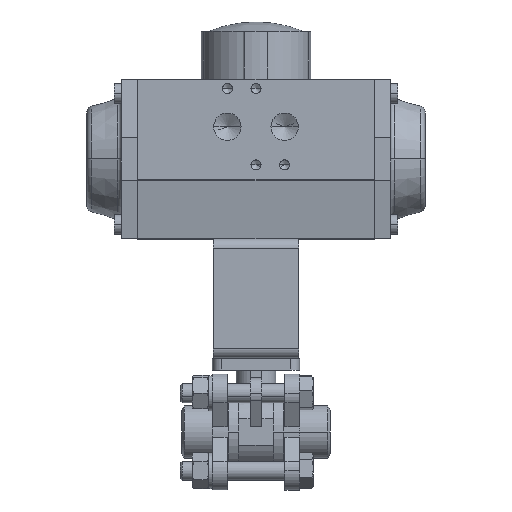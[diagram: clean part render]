
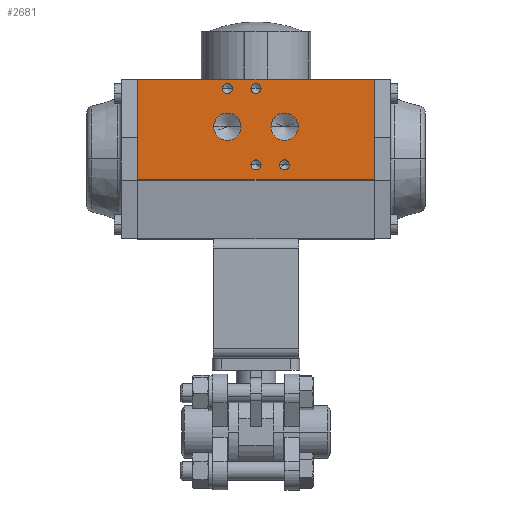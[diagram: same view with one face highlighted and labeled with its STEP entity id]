
A CAD part, top view. The second image highlights one B-rep face of the part: STEP entity #2681.
In plain terms, the highlighted planar face has unit normal (0, 0, 1) as drawn and (1, 0, 0) by its records, which use the part's own axes.
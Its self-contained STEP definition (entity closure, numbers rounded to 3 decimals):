
#140 = VERTEX_POINT ( 'NONE', #11015 ) ;
#141 = VERTEX_POINT ( 'NONE', #11010 ) ;
#145 = VERTEX_POINT ( 'NONE', #11017 ) ;
#146 = VERTEX_POINT ( 'NONE', #11008 ) ;
#150 = VERTEX_POINT ( 'NONE', #12643 ) ;
#151 = VERTEX_POINT ( 'NONE', #12644 ) ;
#155 = VERTEX_POINT ( 'NONE', #12648 ) ;
#156 = VERTEX_POINT ( 'NONE', #12649 ) ;
#160 = VERTEX_POINT ( 'NONE', #12653 ) ;
#161 = VERTEX_POINT ( 'NONE', #12654 ) ;
#165 = VERTEX_POINT ( 'NONE', #12658 ) ;
#166 = VERTEX_POINT ( 'NONE', #12659 ) ;
#1536 = CARTESIAN_POINT ( 'NONE',  ( 36., -8.5, -49.5 ) ) ;
#1546 = CARTESIAN_POINT ( 'NONE',  ( 36., 33.5, -49.5 ) ) ;
#1549 = CARTESIAN_POINT ( 'NONE',  ( 36., 33.5, 49.5 ) ) ;
#1552 = CARTESIAN_POINT ( 'NONE',  ( 36., -8.5, 49.5 ) ) ;
#1928 = LINE ( 'NONE', #1929, #2956 ) ;
#1929 = CARTESIAN_POINT ( 'NONE',  ( 36., 33.5, -49.5 ) ) ;
#1931 = DIRECTION ( 'NONE',  ( 0., 0., 1. ) ) ;
#1936 = CARTESIAN_POINT ( 'NONE',  ( 36., 29.5, 12. ) ) ;
#1937 = DIRECTION ( 'NONE',  ( 1., 0., 0. ) ) ;
#1938 = DIRECTION ( 'NONE',  ( 0., 0., -1. ) ) ;
#1940 = CARTESIAN_POINT ( 'NONE',  ( 36., -2.5, -12. ) ) ;
#1942 = DIRECTION ( 'NONE',  ( 1., 0., 0. ) ) ;
#1943 = DIRECTION ( 'NONE',  ( 0., 0., -1. ) ) ;
#1945 = CARTESIAN_POINT ( 'NONE',  ( 36., -2.5, 0. ) ) ;
#1947 = DIRECTION ( 'NONE',  ( 1., 0., 0. ) ) ;
#1949 = DIRECTION ( 'NONE',  ( 0., 0., -1. ) ) ;
#1953 = CARTESIAN_POINT ( 'NONE',  ( 36., 29.5, 0. ) ) ;
#1954 = DIRECTION ( 'NONE',  ( 1., 0., 0. ) ) ;
#1955 = DIRECTION ( 'NONE',  ( 0., 0., -1. ) ) ;
#1957 = LINE ( 'NONE', #1958, #2940 ) ;
#1958 = CARTESIAN_POINT ( 'NONE',  ( 36., -8.5, 49.5 ) ) ;
#1959 = CARTESIAN_POINT ( 'NONE',  ( 36., 13.5, -12. ) ) ;
#1961 = DIRECTION ( 'NONE',  ( 1., 0., 0. ) ) ;
#1962 = DIRECTION ( 'NONE',  ( 0., 0., -1. ) ) ;
#1963 = LINE ( 'NONE', #1977, #2938 ) ;
#1965 = LINE ( 'NONE', #1972, #2954 ) ;
#1966 = CARTESIAN_POINT ( 'NONE',  ( 36., 13.5, 12. ) ) ;
#1967 = DIRECTION ( 'NONE',  ( 1., 0., 0. ) ) ;
#1968 = DIRECTION ( 'NONE',  ( 0., 0., -1. ) ) ;
#1971 = DIRECTION ( 'NONE',  ( 0., 1., 0. ) ) ;
#1972 = CARTESIAN_POINT ( 'NONE',  ( 36., -8.5, -49.5 ) ) ;
#1976 = DIRECTION ( 'NONE',  ( 0., 0., 1. ) ) ;
#1977 = CARTESIAN_POINT ( 'NONE',  ( 36., -8.5, -49.5 ) ) ;
#1979 = DIRECTION ( 'NONE',  ( 0., 1., 0. ) ) ;
#2681 = ADVANCED_FACE ( 'NONE', ( #12935, #12931, #12938, #12940, #12934, #12936, #12937 ), #12939, .T. ) ;
#2938 = VECTOR ( 'NONE', #1979, 1000. ) ;
#2939 = AXIS2_PLACEMENT_3D ( 'NONE', #1966, #1967, #1968 ) ;
#2940 = VECTOR ( 'NONE', #1971, 1000. ) ;
#2941 = AXIS2_PLACEMENT_3D ( 'NONE', #1959, #1961, #1962 ) ;
#2942 = CIRCLE ( 'NONE', #2939, 5.722 ) ;
#2945 = AXIS2_PLACEMENT_3D ( 'NONE', #1953, #1954, #1955 ) ;
#2946 = CIRCLE ( 'NONE', #2941, 5.722 ) ;
#2947 = AXIS2_PLACEMENT_3D ( 'NONE', #1945, #1947, #1949 ) ;
#2948 = CIRCLE ( 'NONE', #2945, 2.1 ) ;
#2949 = AXIS2_PLACEMENT_3D ( 'NONE', #1940, #1942, #1943 ) ;
#2950 = CIRCLE ( 'NONE', #2947, 2.1 ) ;
#2951 = AXIS2_PLACEMENT_3D ( 'NONE', #1936, #1937, #1938 ) ;
#2952 = CIRCLE ( 'NONE', #2949, 2.1 ) ;
#2954 = VECTOR ( 'NONE', #1976, 1000. ) ;
#2955 = CIRCLE ( 'NONE', #2951, 2.1 ) ;
#2956 = VECTOR ( 'NONE', #1931, 1000. ) ;
#5276 = AXIS2_PLACEMENT_3D ( 'NONE', #13190, #13191, #13192 ) ;
#5278 = CIRCLE ( 'NONE', #5276, 2.1 ) ;
#5295 = AXIS2_PLACEMENT_3D ( 'NONE', #13147, #13148, #13149 ) ;
#5299 = AXIS2_PLACEMENT_3D ( 'NONE', #13141, #13142, #13143 ) ;
#5301 = CIRCLE ( 'NONE', #5299, 5.722 ) ;
#5307 = AXIS2_PLACEMENT_3D ( 'NONE', #13128, #13129, #13130 ) ;
#5309 = CIRCLE ( 'NONE', #5307, 2.1 ) ;
#5310 = CIRCLE ( 'NONE', #5295, 2.1 ) ;
#5332 = AXIS2_PLACEMENT_3D ( 'NONE', #13087, #13088, #13089 ) ;
#5335 = CIRCLE ( 'NONE', #5332, 5.722 ) ;
#5375 = AXIS2_PLACEMENT_3D ( 'NONE', #14428, #14429, #14430 ) ;
#5380 = CIRCLE ( 'NONE', #5375, 2.1 ) ;
#5696 = EDGE_CURVE ( 'NONE', #156, #155, #5380, .T. ) ;
#5718 = EDGE_CURVE ( 'NONE', #146, #145, #5335, .T. ) ;
#5733 = EDGE_CURVE ( 'NONE', #166, #165, #5309, .T. ) ;
#5737 = EDGE_CURVE ( 'NONE', #141, #140, #5301, .T. ) ;
#5739 = EDGE_CURVE ( 'NONE', #151, #150, #5310, .T. ) ;
#5753 = EDGE_CURVE ( 'NONE', #161, #160, #5278, .T. ) ;
#6240 = EDGE_LOOP ( 'NONE', ( #8830, #8828, #8827, #8826 ) ) ;
#6241 = EDGE_LOOP ( 'NONE', ( #8763, #8836 ) ) ;
#6243 = EDGE_LOOP ( 'NONE', ( #8835, #8833 ) ) ;
#6248 = EDGE_LOOP ( 'NONE', ( #8742, #8743 ) ) ;
#6250 = EDGE_LOOP ( 'NONE', ( #8837, #8834 ) ) ;
#6273 = EDGE_LOOP ( 'NONE', ( #8832, #8831 ) ) ;
#6278 = EDGE_LOOP ( 'NONE', ( #8735, #8838 ) ) ;
#8735 = ORIENTED_EDGE ( 'NONE', *, *, #16183, .F. ) ;
#8742 = ORIENTED_EDGE ( 'NONE', *, *, #16182, .F. ) ;
#8743 = ORIENTED_EDGE ( 'NONE', *, *, #5733, .F. ) ;
#8763 = ORIENTED_EDGE ( 'NONE', *, *, #16184, .F. ) ;
#8826 = ORIENTED_EDGE ( 'NONE', *, *, #16190, .T. ) ;
#8827 = ORIENTED_EDGE ( 'NONE', *, *, #16189, .F. ) ;
#8828 = ORIENTED_EDGE ( 'NONE', *, *, #16188, .F. ) ;
#8830 = ORIENTED_EDGE ( 'NONE', *, *, #16180, .T. ) ;
#8831 = ORIENTED_EDGE ( 'NONE', *, *, #5737, .F. ) ;
#8832 = ORIENTED_EDGE ( 'NONE', *, *, #16187, .F. ) ;
#8833 = ORIENTED_EDGE ( 'NONE', *, *, #5718, .F. ) ;
#8834 = ORIENTED_EDGE ( 'NONE', *, *, #5739, .F. ) ;
#8835 = ORIENTED_EDGE ( 'NONE', *, *, #16186, .F. ) ;
#8836 = ORIENTED_EDGE ( 'NONE', *, *, #5696, .F. ) ;
#8837 = ORIENTED_EDGE ( 'NONE', *, *, #16185, .F. ) ;
#8838 = ORIENTED_EDGE ( 'NONE', *, *, #5753, .F. ) ;
#11008 = CARTESIAN_POINT ( 'NONE',  ( 36., 13.5, -6.277 ) ) ;
#11010 = CARTESIAN_POINT ( 'NONE',  ( 36., 13.5, 17.722 ) ) ;
#11015 = CARTESIAN_POINT ( 'NONE',  ( 36., 13.5, 6.277 ) ) ;
#11017 = CARTESIAN_POINT ( 'NONE',  ( 36., 13.5, -17.722 ) ) ;
#12643 = CARTESIAN_POINT ( 'NONE',  ( 36., 29.5, -2.1 ) ) ;
#12644 = CARTESIAN_POINT ( 'NONE',  ( 36., 29.5, 2.1 ) ) ;
#12648 = CARTESIAN_POINT ( 'NONE',  ( 36., -2.5, -2.1 ) ) ;
#12649 = CARTESIAN_POINT ( 'NONE',  ( 36., -2.5, 2.1 ) ) ;
#12653 = CARTESIAN_POINT ( 'NONE',  ( 36., -2.5, -14.1 ) ) ;
#12654 = CARTESIAN_POINT ( 'NONE',  ( 36., -2.5, -9.9 ) ) ;
#12658 = CARTESIAN_POINT ( 'NONE',  ( 36., 29.5, 9.9 ) ) ;
#12659 = CARTESIAN_POINT ( 'NONE',  ( 36., 29.5, 14.1 ) ) ;
#12927 = CARTESIAN_POINT ( 'NONE',  ( 36., -8.5, -49.5 ) ) ;
#12931 = FACE_BOUND ( 'NONE', #6278, .T. ) ;
#12934 = FACE_BOUND ( 'NONE', #6243, .T. ) ;
#12935 = FACE_BOUND ( 'NONE', #6248, .T. ) ;
#12936 = FACE_BOUND ( 'NONE', #6273, .T. ) ;
#12937 = FACE_OUTER_BOUND ( 'NONE', #6240, .T. ) ;
#12938 = FACE_BOUND ( 'NONE', #6241, .T. ) ;
#12939 = PLANE ( 'NONE',  #16764 ) ;
#12940 = FACE_BOUND ( 'NONE', #6250, .T. ) ;
#12943 = DIRECTION ( 'NONE',  ( 1., 0., 0. ) ) ;
#12944 = DIRECTION ( 'NONE',  ( 0., 0., -1. ) ) ;
#13087 = CARTESIAN_POINT ( 'NONE',  ( 36., 13.5, -12. ) ) ;
#13088 = DIRECTION ( 'NONE',  ( 1., 0., 0. ) ) ;
#13089 = DIRECTION ( 'NONE',  ( 0., 0., -1. ) ) ;
#13128 = CARTESIAN_POINT ( 'NONE',  ( 36., 29.5, 12. ) ) ;
#13129 = DIRECTION ( 'NONE',  ( 1., 0., 0. ) ) ;
#13130 = DIRECTION ( 'NONE',  ( 0., 0., -1. ) ) ;
#13141 = CARTESIAN_POINT ( 'NONE',  ( 36., 13.5, 12. ) ) ;
#13142 = DIRECTION ( 'NONE',  ( 1., 0., 0. ) ) ;
#13143 = DIRECTION ( 'NONE',  ( 0., 0., -1. ) ) ;
#13147 = CARTESIAN_POINT ( 'NONE',  ( 36., 29.5, 0. ) ) ;
#13148 = DIRECTION ( 'NONE',  ( 1., 0., 0. ) ) ;
#13149 = DIRECTION ( 'NONE',  ( 0., 0., -1. ) ) ;
#13190 = CARTESIAN_POINT ( 'NONE',  ( 36., -2.5, -12. ) ) ;
#13191 = DIRECTION ( 'NONE',  ( 1., 0., 0. ) ) ;
#13192 = DIRECTION ( 'NONE',  ( 0., 0., -1. ) ) ;
#14428 = CARTESIAN_POINT ( 'NONE',  ( 36., -2.5, 0. ) ) ;
#14429 = DIRECTION ( 'NONE',  ( 1., 0., 0. ) ) ;
#14430 = DIRECTION ( 'NONE',  ( 0., 0., -1. ) ) ;
#15207 = VERTEX_POINT ( 'NONE', #1536 ) ;
#15216 = VERTEX_POINT ( 'NONE', #1546 ) ;
#15220 = VERTEX_POINT ( 'NONE', #1549 ) ;
#15224 = VERTEX_POINT ( 'NONE', #1552 ) ;
#16180 = EDGE_CURVE ( 'NONE', #15216, #15220, #1928, .T. ) ;
#16182 = EDGE_CURVE ( 'NONE', #165, #166, #2955, .T. ) ;
#16183 = EDGE_CURVE ( 'NONE', #160, #161, #2952, .T. ) ;
#16184 = EDGE_CURVE ( 'NONE', #155, #156, #2950, .T. ) ;
#16185 = EDGE_CURVE ( 'NONE', #150, #151, #2948, .T. ) ;
#16186 = EDGE_CURVE ( 'NONE', #145, #146, #2946, .T. ) ;
#16187 = EDGE_CURVE ( 'NONE', #140, #141, #2942, .T. ) ;
#16188 = EDGE_CURVE ( 'NONE', #15224, #15220, #1957, .T. ) ;
#16189 = EDGE_CURVE ( 'NONE', #15207, #15224, #1965, .T. ) ;
#16190 = EDGE_CURVE ( 'NONE', #15207, #15216, #1963, .T. ) ;
#16764 = AXIS2_PLACEMENT_3D ( 'NONE', #12927, #12943, #12944 ) ;
